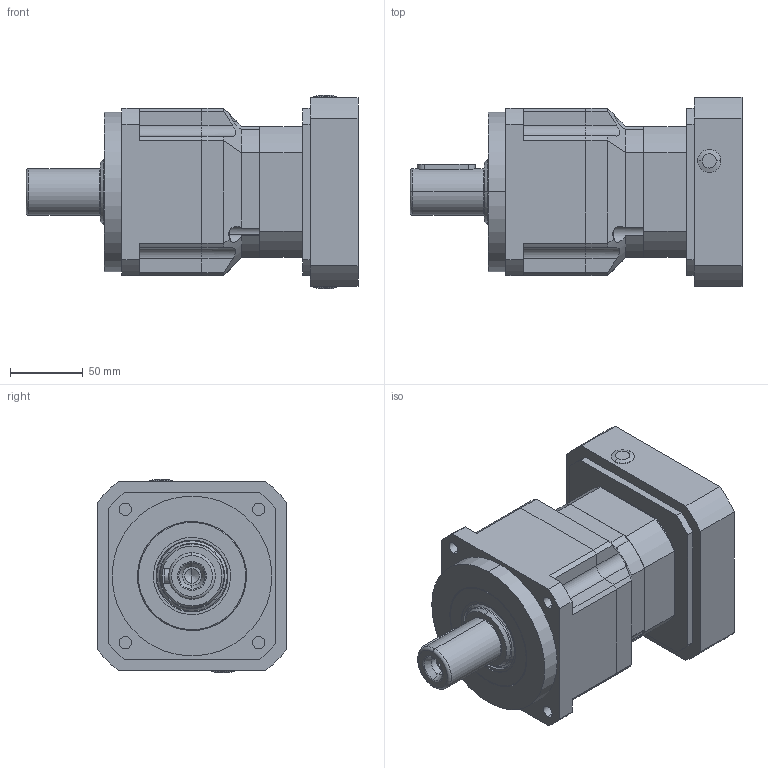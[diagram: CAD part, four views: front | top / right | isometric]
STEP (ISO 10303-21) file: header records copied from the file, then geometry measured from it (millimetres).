
FILE_DESCRIPTION (( 'STEP AP203' ), '1' );
FILE_NAME ('115-L2-24-110-145-M8(T倰)-芧怢12.STEP', '2020-06-20T09:04:09', ( 'ylmfeng' ), ( 'ylmfeng.com' ), 'SwSTEP 2.0', 'SolidWorks 2014', '' );
FILE_SCHEMA (( 'CONFIG_CONTROL_DESIGN' ));
Length unit declared in the file: millimetre
Products named in the file (1): 115-L2-24-110-145-M8(T倰)-芧怢12
Bounding box: 228.5 x 130 x 133 mm (x, y, z)
Volume: 1836590.1 mm3; surface area: 233948.1 mm2
Topology: 24 solids, 24 shells, 686 faces, 1638 edges, 1034 vertices
Faces by surface type: plane 291, cylinder 241, cone 92, torus 32, bspline 26, sphere 4
Entity records: 23003 total; most frequent: CARTESIAN_POINT 7080, DIRECTION 3366, ORIENTED_EDGE 3244, EDGE_CURVE 1622, AXIS2_PLACEMENT_3D 1270, VERTEX_POINT 1034, VECTOR 826, LINE 826
